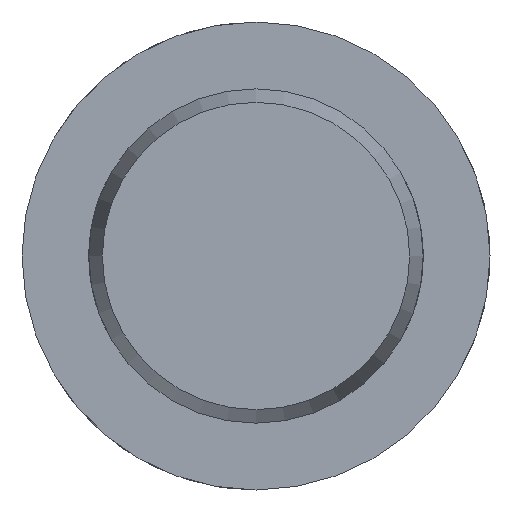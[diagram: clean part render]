
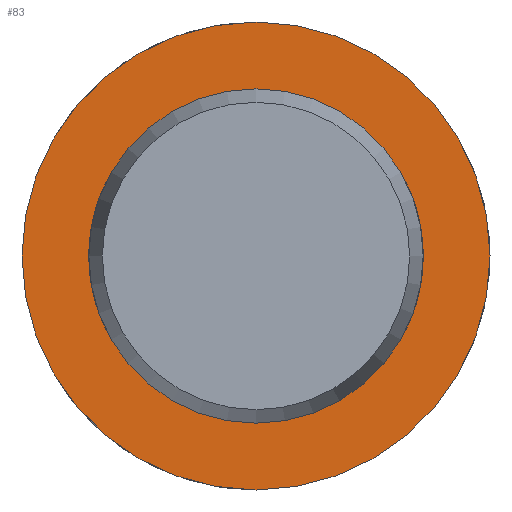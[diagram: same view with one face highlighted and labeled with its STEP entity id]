
A CAD part, left-side view. The second image highlights one B-rep face of the part: STEP entity #83.
In plain terms, the highlighted planar face has unit normal (-1, 0, 0).
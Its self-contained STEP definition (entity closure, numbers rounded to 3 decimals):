
#83 = ADVANCED_FACE( '', ( #128, #129 ), #130, .F. );
#128 = FACE_OUTER_BOUND( '', #204, .T. );
#129 = FACE_BOUND( '', #205, .T. );
#130 = PLANE( '', #206 );
#204 = EDGE_LOOP( '', ( #318 ) );
#205 = EDGE_LOOP( '', ( #319 ) );
#206 = AXIS2_PLACEMENT_3D( '', #320, #321, #322 );
#318 = ORIENTED_EDGE( '', *, *, #481, .F. );
#319 = ORIENTED_EDGE( '', *, *, #471, .T. );
#320 = CARTESIAN_POINT( '', ( 129.6, 5., 0. ) );
#321 = DIRECTION( '', ( 1., 0., 0. ) );
#322 = DIRECTION( '', ( 0., 0., -1. ) );
#471 = EDGE_CURVE( '', #541, #541, #542, .T. );
#481 = EDGE_CURVE( '', #559, #559, #560, .T. );
#541 = VERTEX_POINT( '', #726 );
#542 = CIRCLE( '', #727, 5. );
#559 = VERTEX_POINT( '', #881 );
#560 = CIRCLE( '', #882, 7. );
#726 = CARTESIAN_POINT( '', ( 129.6, 0., -5. ) );
#727 = AXIS2_PLACEMENT_3D( '', #943, #944, #945 );
#881 = CARTESIAN_POINT( '', ( 129.6, 0., -7. ) );
#882 = AXIS2_PLACEMENT_3D( '', #964, #965, #966 );
#943 = CARTESIAN_POINT( '', ( 129.6, 0., 0. ) );
#944 = DIRECTION( '', ( 1., 0., 0. ) );
#945 = DIRECTION( '', ( 0., 0., -1. ) );
#964 = CARTESIAN_POINT( '', ( 129.6, 0., 0. ) );
#965 = DIRECTION( '', ( 1., 0., 0. ) );
#966 = DIRECTION( '', ( 0., 0., -1. ) );
